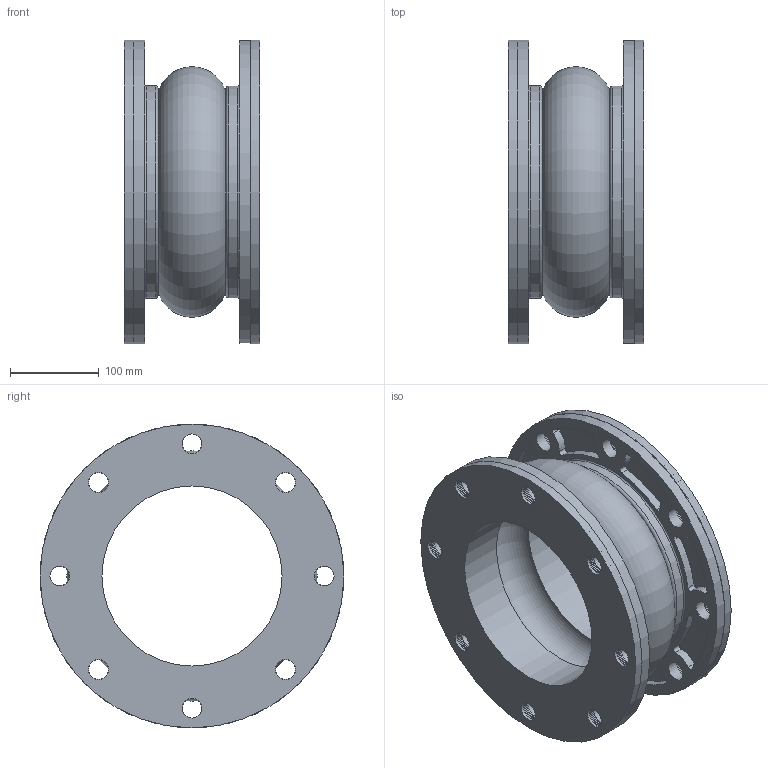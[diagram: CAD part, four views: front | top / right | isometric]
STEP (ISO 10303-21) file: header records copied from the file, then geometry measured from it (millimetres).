
FILE_DESCRIPTION((''),'2;1');
FILE_NAME('N:\StockJoints-ADSK, IGES, STEP, PNG\STEP\451 8x6.stp','2013-05-23T11:02:57',('mquog'),(''),'Autodesk Inventor 2011','Autodesk Inventor 2011','');
FILE_SCHEMA(('AUTOMOTIVE_DESIGN { 1 0 10303 214 1 1 1 1 }'));
Length unit declared in the file: inch
Products named in the file (3): 451 8x6; Style451 8x6; 8DI450BUR150
Assembly tree (3 placements, depth 2):
  451 8x6
    Style451 8x6
    8DI450BUR150  x2
Bounding box: 152.4 x 342.9 x 342.9 mm (x, y, z)
Volume: 3756951.7 mm3; surface area: 3639145.8 mm2
Topology: 14 solids, 14 shells, 414 faces, 1014 edges, 654 vertices
Faces by surface type: cylinder 312, plane 54, torus 48
Full cylindrical faces by diameter (mm): 22.225 x128, 203.2 x2, 209.55 x4, 215.9 x8, 217.932 x4, 219.964 x4, 221.996 x4, 224.028 x4, 227.013 x2, 227.203 x2, 234.95 x2, 239.713 x2, 339.725 x14, 342.9 x4
Entity records: 9303 total; most frequent: DIRECTION 1732, CARTESIAN_POINT 1400, ORIENTED_EDGE 1132, AXIS2_PLACEMENT_3D 834, EDGE_LOOP 828, EDGE_CURVE 566, VERTEX_POINT 502, CIRCLE 502
